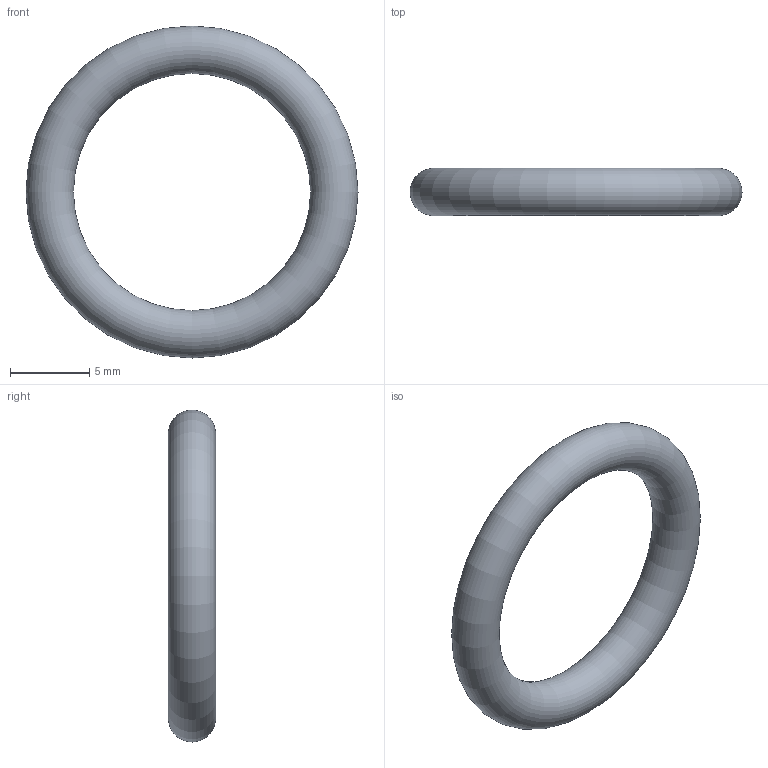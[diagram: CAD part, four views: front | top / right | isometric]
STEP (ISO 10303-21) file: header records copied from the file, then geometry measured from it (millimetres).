
FILE_DESCRIPTION( ( 'STEP AP203' ), '1' );
FILE_NAME( 'C:/Temp/Ganter_Step_05_03_2020/data/3_5/or638/O-Ring OR638-15.00-3.00-70.stp', '2020-03-12T13:44:29', ( 'License CC BY-ND 4.0' ), ( 'CADENAS' ), ' ', 'PARTsolutions', ' ' );
FILE_SCHEMA( ( 'CONFIG_CONTROL_DESIGN' ) );
Length unit declared in the file: millimetre
Products named in the file (1): _O-Ring OR638-15.00-3.00-70
Bounding box: 21 x 3 x 21 mm (x, y, z)
Volume: 399.7 mm3; surface area: 533 mm2
Topology: 1 solids, 1 shells, 1 faces, 2 edges, 1 vertices
Faces by surface type: torus 1
Entity records: 62 total; most frequent: CC_DESIGN_PERSON_AND_ORGANIZATION_ASSIGNMENT 5, PERSON_AND_ORGANIZATION_ROLE 4, DIRECTION 4, CARTESIAN_POINT 3, DATE_TIME_ROLE 2, CC_DESIGN_DATE_AND_TIME_ASSIGNMENT 2, AXIS2_PLACEMENT_3D 2, DIMENSIONAL_EXPONENTS 2
